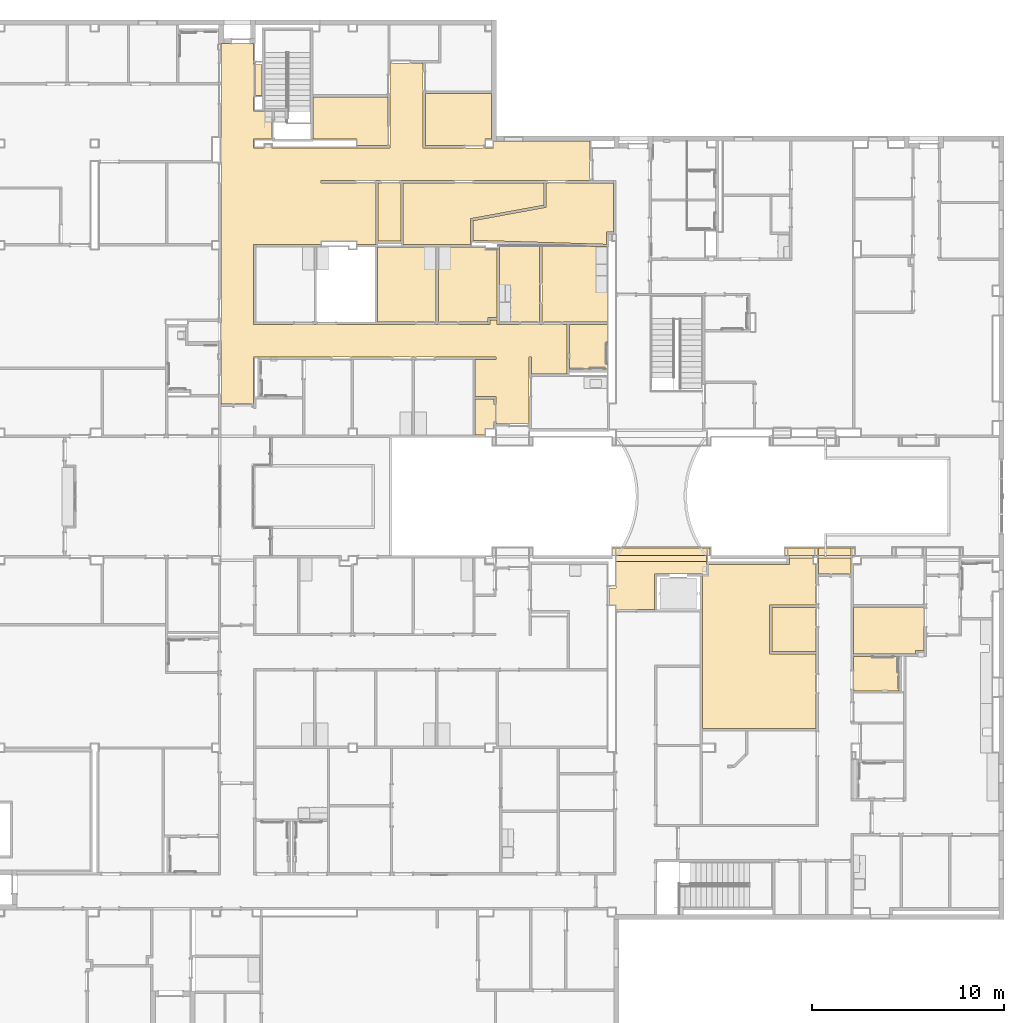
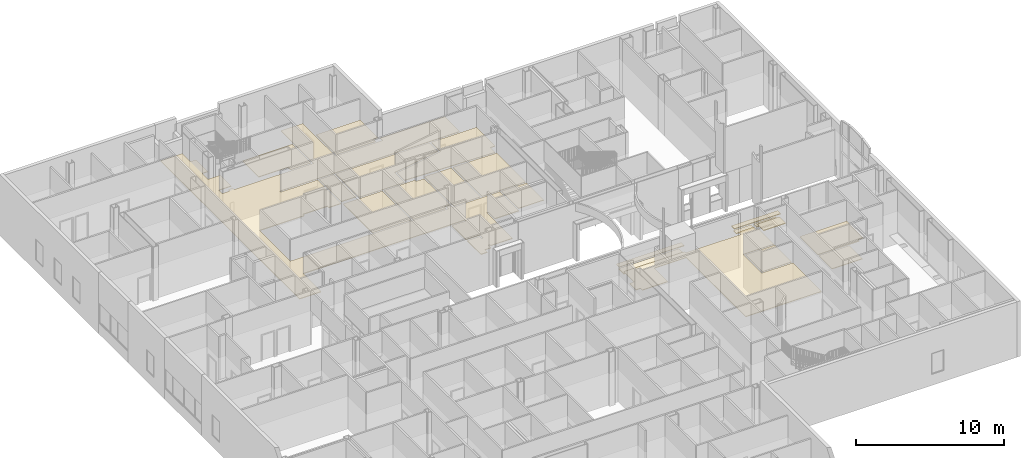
# One storey, part 53 of 87: 21 coverings.
"""IFC2X3 building model written with IfcOpenShell, lengths in metres."""

from ifc_helpers import new_model, entity, si_unit, converted_unit, origin, place, context, project, spatial, face_set, surface_model, material, layer, layer_set, layer_usage, element, save


model = new_model("IFC2X3")

# Units and contexts
model_context = context("Model", 3, precision=1e-09, world=origin())
plan_context = context("Plan", 3, precision=1e-09, world=origin())
ifc_project = project(units=[si_unit("LENGTHUNIT", "METRE"), si_unit("AREAUNIT", "SQUARE_METRE"), si_unit("VOLUMEUNIT", "CUBIC_METRE"), converted_unit("PLANEANGLEUNIT", "DEGREE", entity("IfcRatioMeasure", 0.01745329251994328), si_unit("PLANEANGLEUNIT", "RADIAN"), dimensions=[0, 0, 0, 0, 0, 0, 0]), si_unit("TIMEUNIT", "SECOND")], contexts=[model_context, plan_context])

# Site, building, storey
site_placement = place(None, origin())
site = spatial("IfcSite", under=ifc_project, at=site_placement, Name="Default", CompositionType="ELEMENT")
building_placement = place(site_placement, origin())
building = spatial("IfcBuilding", under=site, at=building_placement, CompositionType="ELEMENT")
storey_placement = place(building_placement, origin())
storey = spatial("IfcBuildingStorey", under=building, at=storey_placement, Name="First Floor", CompositionType="ELEMENT", Elevation=-3.531500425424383e-13)

# Coverings
ifc_material_1 = material(Name="Default")
ifc_layer_1 = layer(ifc_material_1, 0.03599999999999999)
ifc_material_2 = material(Name="Ceiling Tile 600 x 600")
ifc_layer_2 = layer(ifc_material_2, 0.016)
ifc_layer_set_1 = layer_set([ifc_layer_1, ifc_layer_2], Name="Compound Ceiling:ACT 600 x 600mm Grid")
ifc_layer_usage_1 = layer_usage(ifc_layer_set_1, "AXIS3", "NEGATIVE", 0.0)
covering_1_placement = place(storey_placement, origin())
element("IfcCovering", 1, at=covering_1_placement, inside=storey, material=ifc_layer_usage_1, Name="Compound Ceiling:ACT 600 x 600mm Grid", ObjectType="Compound Ceiling:ACT 600 x 600mm Grid", PredefinedType="CEILING", context=model_context, shape_type="SurfaceModel", body=[
    surface_model("IfcFaceBasedSurfaceModel", [(-19.9540000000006, 48.02599999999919, 2.732), (-19.95400000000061, 45.48399999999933, 2.732), (-20.32900000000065, 45.48399999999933, 2.732), (-20.32900000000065, 44.83118581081, 2.732), (-27.28500000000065, 45.04268581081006, 2.732), (-27.28500000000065, 46.06502903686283, 2.732), (-23.47500000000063, 46.76502903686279, 2.732), (-23.47500000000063, 48.02599999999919, 2.732), (-19.9540000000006, 48.02599999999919, 2.68), (-19.95400000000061, 45.48399999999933, 2.68), (-20.32900000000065, 45.48399999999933, 2.68), (-20.32900000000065, 44.83118581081, 2.68), (-27.28500000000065, 45.04268581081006, 2.68), (-27.28500000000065, 46.06502903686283, 2.68), (-23.47500000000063, 46.76502903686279, 2.68), (-23.47500000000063, 48.02599999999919, 2.68)], [face_set([[[0, 1, 2, 3, 4, 5, 6, 7]], [[8, 9, 10, 11, 12, 13, 14, 15]], [[7, 15, 8, 0]], [[6, 14, 15, 7]], [[5, 13, 14, 6]], [[4, 12, 13, 5]], [[3, 4, 12, 11]], [[2, 3, 11, 10]], [[1, 2, 10, 9]], [[0, 1, 9, 8]]])]),
])
ifc_layer_usage_2 = layer_usage(ifc_layer_set_1, "AXIS3", "NEGATIVE", 0.0)
covering_2_placement = place(storey_placement, origin())
element("IfcCovering", 2, at=covering_2_placement, inside=storey, material=ifc_layer_usage_2, Name="Compound Ceiling:ACT 600 x 600mm Grid", ObjectType="Compound Ceiling:ACT 600 x 600mm Grid", PredefinedType="CEILING", context=model_context, shape_type="SurfaceModel", body=[
    surface_model("IfcFaceBasedSurfaceModel", [(-26.21000000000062, 50.20299999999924, 2.732), (-26.21000000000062, 49.85999999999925, 2.732), (-29.89000000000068, 49.85999999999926, 2.732), (-29.89000000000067, 54.28659999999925, 2.732), (-31.60000000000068, 54.28659999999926, 2.732), (-31.60000000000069, 49.85999999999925, 2.732), (-37.7925737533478, 49.85999999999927, 2.732), (-37.7925737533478, 50.05500062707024, 2.732), (-38.14400000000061, 50.05500062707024, 2.732), (-38.14400000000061, 49.85999999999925, 2.732), (-38.72000000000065, 49.85999999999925, 2.732), (-38.72000000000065, 50.31999999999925, 2.732), (-37.75500000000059, 50.31999999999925, 2.732), (-37.75500000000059, 51.78999999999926, 2.732), (-38.72000000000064, 51.78999999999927, 2.732), (-38.72000000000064, 52.5834256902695, 2.732), (-38.28400014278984, 52.5834256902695, 2.732), (-38.28400014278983, 54.19653515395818, 2.732), (-38.72000000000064, 54.19653515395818, 2.732), (-38.72000000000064, 55.28799999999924, 2.732), (-40.41300000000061, 55.28799999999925, 2.732), (-40.41300000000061, 53.20199999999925, 2.732), (-40.41300000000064, 36.50149999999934, 2.732), (-38.72000000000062, 36.50149999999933, 2.732), (-38.72000000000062, 38.94999999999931, 2.732), (-26.08000000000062, 38.94999999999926, 2.732), (-26.08000000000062, 38.82599999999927, 2.732), (-27.17000000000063, 38.82599999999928, 2.732), (-27.17000000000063, 36.90999999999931, 2.732), (-26.08000000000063, 36.9099999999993, 2.732), (-26.08000000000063, 36.49499999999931, 2.732), (-26.20400000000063, 36.49499999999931, 2.732), (-26.20400000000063, 36.78599999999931, 2.732), (-27.17000000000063, 36.78599999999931, 2.732), (-27.17000000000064, 34.9035481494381, 2.732), (-26.67000000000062, 34.9035481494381, 2.732), (-26.67000000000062, 35.23999999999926, 2.732), (-26.20400000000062, 35.23999999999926, 2.732), (-26.20400000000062, 35.57999999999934, 2.732), (-26.08000000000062, 35.57999999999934, 2.732), (-26.08000000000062, 35.47999999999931, 2.732), (-24.37000000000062, 35.4799999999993, 2.732), (-24.37000000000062, 38.94999999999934, 2.732), (-24.24600000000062, 38.94999999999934, 2.732), (-24.24600000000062, 38.07399999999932, 2.732), (-22.38000000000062, 38.07399999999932, 2.732), (-22.38000000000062, 40.65999999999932, 2.732), (-26.04000000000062, 40.65999999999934, 2.732), (-26.04000000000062, 40.88499955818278, 2.732), (-26.39000084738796, 40.88499955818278, 2.732), (-26.39000084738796, 40.65999999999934, 2.732), (-38.72000000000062, 40.65999999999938, 2.732), (-38.72000000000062, 44.82999999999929, 2.732), (-35.21500000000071, 44.82999999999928, 2.732), (-35.21500000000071, 45.00999999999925, 2.732), (-33.32000000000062, 45.00999999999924, 2.732), (-33.32000000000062, 44.82999999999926, 2.732), (-32.3490000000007, 44.82999999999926, 2.732), (-32.3490000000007, 48.02599999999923, 2.732), (-35.21500000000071, 48.02599999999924, 2.732), (-35.21500000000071, 48.14999999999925, 2.732), (-21.18000000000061, 48.1499999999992, 2.732), (-21.1800000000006, 50.20299999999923, 2.732), (-26.21000000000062, 50.20299999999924, 2.68), (-21.1800000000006, 50.20299999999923, 2.68), (-21.18000000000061, 48.1499999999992, 2.68), (-35.21500000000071, 48.14999999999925, 2.68), (-35.21500000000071, 48.02599999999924, 2.68), (-32.3490000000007, 48.02599999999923, 2.68), (-32.3490000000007, 44.82999999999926, 2.68), (-33.32000000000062, 44.82999999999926, 2.68), (-33.32000000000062, 45.00999999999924, 2.68), (-35.21500000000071, 45.00999999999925, 2.68), (-35.21500000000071, 44.82999999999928, 2.68), (-38.72000000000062, 44.82999999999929, 2.68), (-38.72000000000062, 40.65999999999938, 2.68), (-26.39000084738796, 40.65999999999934, 2.68), (-26.39000084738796, 40.88499955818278, 2.68), (-26.04000000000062, 40.88499955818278, 2.68), (-26.04000000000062, 40.65999999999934, 2.68), (-22.38000000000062, 40.65999999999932, 2.68), (-22.38000000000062, 38.07399999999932, 2.68), (-24.24600000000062, 38.07399999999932, 2.68), (-24.24600000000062, 38.94999999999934, 2.68), (-24.37000000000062, 38.94999999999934, 2.68), (-24.37000000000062, 35.4799999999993, 2.68), (-26.08000000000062, 35.47999999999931, 2.68), (-26.08000000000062, 35.57999999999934, 2.68), (-26.20400000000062, 35.57999999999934, 2.68), (-26.20400000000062, 35.23999999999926, 2.68), (-26.67000000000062, 35.23999999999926, 2.68), (-26.67000000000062, 34.9035481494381, 2.68), (-27.17000000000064, 34.9035481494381, 2.68), (-27.17000000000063, 36.78599999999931, 2.68), (-26.20400000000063, 36.78599999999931, 2.68), (-26.20400000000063, 36.49499999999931, 2.68), (-26.08000000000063, 36.49499999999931, 2.68), (-26.08000000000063, 36.9099999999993, 2.68), (-27.17000000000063, 36.90999999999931, 2.68), (-27.17000000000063, 38.82599999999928, 2.68), (-26.08000000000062, 38.82599999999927, 2.68), (-26.08000000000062, 38.94999999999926, 2.68), (-38.72000000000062, 38.94999999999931, 2.68), (-38.72000000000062, 36.50149999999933, 2.68), (-40.41300000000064, 36.50149999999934, 2.68), (-40.41300000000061, 53.20199999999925, 2.68), (-40.41300000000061, 55.28799999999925, 2.68), (-38.72000000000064, 55.28799999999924, 2.68), (-38.72000000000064, 54.19653515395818, 2.68), (-38.28400014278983, 54.19653515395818, 2.68), (-38.28400014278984, 52.5834256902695, 2.68), (-38.72000000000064, 52.5834256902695, 2.68), (-38.72000000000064, 51.78999999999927, 2.68), (-37.75500000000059, 51.78999999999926, 2.68), (-37.75500000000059, 50.31999999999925, 2.68), (-38.72000000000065, 50.31999999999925, 2.68), (-38.72000000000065, 49.85999999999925, 2.68), (-38.14400000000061, 49.85999999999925, 2.68), (-38.14400000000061, 50.05500062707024, 2.68), (-37.7925737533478, 50.05500062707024, 2.68), (-37.7925737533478, 49.85999999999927, 2.68), (-31.60000000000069, 49.85999999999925, 2.68), (-31.60000000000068, 54.28659999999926, 2.68), (-29.89000000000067, 54.28659999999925, 2.68), (-29.89000000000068, 49.85999999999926, 2.68), (-26.21000000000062, 49.85999999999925, 2.68)], [face_set([[[0, 1, 2, 3, 4, 5, 6, 7, 8, 9, 10, 11, 12, 13, 14, 15, 16, 17, 18, 19, 20, 21, 22, 23, 24, 25, 26, 27, 28, 29, 30, 31, 32, 33, 34, 35, 36, 37, 38, 39, 40, 41, 42, 43, 44, 45, 46, 47, 48, 49, 50, 51, 52, 53, 54, 55, 56, 57, 58, 59, 60, 61, 62]], [[63, 64, 65, 66, 67, 68, 69, 70, 71, 72, 73, 74, 75, 76, 77, 78, 79, 80, 81, 82, 83, 84, 85, 86, 87, 88, 89, 90, 91, 92, 93, 94, 95, 96, 97, 98, 99, 100, 101, 102, 103, 104, 105, 106, 107, 108, 109, 110, 111, 112, 113, 114, 115, 116, 117, 118, 119, 120, 121, 122, 123, 124, 125]], [[2, 124, 125, 1]], [[3, 2, 124, 123]], [[4, 122, 123, 3]], [[5, 121, 122, 4]], [[6, 120, 121, 5]], [[7, 6, 120, 119]], [[8, 118, 119, 7]], [[9, 117, 118, 8]], [[10, 116, 117, 9]], [[11, 10, 116, 115]], [[12, 11, 115, 114]], [[13, 12, 114, 113]], [[14, 112, 113, 13]], [[15, 14, 112, 111]], [[16, 15, 111, 110]], [[17, 16, 110, 109]], [[18, 108, 109, 17]], [[19, 18, 108, 107]], [[20, 106, 107, 19]], [[21, 105, 106, 20]], [[22, 104, 105, 21]], [[23, 22, 104, 103]], [[24, 23, 103, 102]], [[25, 24, 102, 101]], [[26, 100, 101, 25]], [[27, 99, 100, 26]], [[28, 98, 99, 27]], [[29, 28, 98, 97]], [[30, 96, 97, 29]], [[31, 95, 96, 30]], [[32, 31, 95, 94]], [[33, 93, 94, 32]], [[34, 92, 93, 33]], [[35, 34, 92, 91]], [[36, 35, 91, 90]], [[37, 36, 90, 89]], [[38, 37, 89, 88]], [[39, 38, 88, 87]], [[40, 86, 87, 39]], [[41, 40, 86, 85]], [[42, 41, 85, 84]], [[43, 42, 84, 83]], [[44, 82, 83, 43]], [[45, 44, 82, 81]], [[46, 45, 81, 80]], [[47, 79, 80, 46]], [[48, 47, 79, 78]], [[49, 77, 78, 48]], [[50, 76, 77, 49]], [[51, 75, 76, 50]], [[52, 51, 75, 74]], [[53, 52, 74, 73]], [[54, 53, 73, 72]], [[55, 54, 72, 71]], [[56, 70, 71, 55]], [[57, 56, 70, 69]], [[58, 57, 69, 68]], [[59, 67, 68, 58]], [[60, 59, 67, 66]], [[61, 60, 66, 65]], [[62, 61, 65, 64]], [[0, 63, 64, 62]], [[1, 125, 63, 0]]])]),
])
ifc_layer_usage_3 = layer_usage(ifc_layer_set_1, "AXIS3", "NEGATIVE", 0.0)
covering_3_placement = place(storey_placement, origin())
element("IfcCovering", 3, at=covering_3_placement, inside=storey, material=ifc_layer_usage_3, Name="Compound Ceiling:ACT 600 x 600mm Grid", ObjectType="Compound Ceiling:ACT 600 x 600mm Grid", PredefinedType="CEILING", context=model_context, shape_type="SurfaceModel", body=[
    surface_model("IfcFaceBasedSurfaceModel", [(-32.22500000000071, 45.00999999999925, 2.732), (-32.2250000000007, 48.02599999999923, 2.732), (-31.04900000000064, 48.02599999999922, 2.732), (-31.04900000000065, 45.00999999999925, 2.732), (-32.22500000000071, 45.00999999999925, 2.68), (-32.2250000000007, 48.02599999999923, 2.68), (-31.04900000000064, 48.02599999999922, 2.68), (-31.04900000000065, 45.00999999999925, 2.68)], [face_set([[[0, 1, 2, 3]], [[4, 5, 6, 7]], [[3, 0, 4, 7]], [[2, 3, 7, 6]], [[1, 5, 6, 2]], [[0, 4, 5, 1]]])]),
])
ifc_layer_usage_4 = layer_usage(ifc_layer_set_1, "AXIS3", "NEGATIVE", 0.0)
covering_4_placement = place(storey_placement, origin())
element("IfcCovering", 4, at=covering_4_placement, inside=storey, material=ifc_layer_usage_4, Name="Compound Ceiling:ACT 600 x 600mm Grid", ObjectType="Compound Ceiling:ACT 600 x 600mm Grid", PredefinedType="CEILING", context=model_context, shape_type="SurfaceModel", body=[
    surface_model("IfcFaceBasedSurfaceModel", [(-27.40900000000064, 44.82999999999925, 2.732), (-27.40900000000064, 46.16832236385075, 2.732), (-23.59900000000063, 46.86832236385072, 2.732), (-23.59900000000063, 48.02599999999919, 2.732), (-30.92500000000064, 48.02599999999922, 2.732), (-30.92500000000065, 44.82999999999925, 2.732), (-27.40900000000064, 44.82999999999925, 2.68), (-30.92500000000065, 44.82999999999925, 2.68), (-30.92500000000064, 48.02599999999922, 2.68), (-23.59900000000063, 48.02599999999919, 2.68), (-23.59900000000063, 46.86832236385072, 2.68), (-27.40900000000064, 46.16832236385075, 2.68)], [face_set([[[0, 1, 2, 3, 4, 5]], [[6, 7, 8, 9, 10, 11]], [[1, 0, 6, 11]], [[2, 1, 11, 10]], [[3, 2, 10, 9]], [[4, 8, 9, 3]], [[5, 7, 8, 4]], [[0, 5, 7, 6]]])]),
])
ifc_layer_usage_5 = layer_usage(ifc_layer_set_1, "AXIS3", "NEGATIVE", 0.0)
covering_5_placement = place(storey_placement, origin())
element("IfcCovering", 5, at=covering_5_placement, inside=storey, material=ifc_layer_usage_5, Name="Compound Ceiling:ACT 600 x 600mm Grid", ObjectType="Compound Ceiling:ACT 600 x 600mm Grid", PredefinedType="CEILING", context=model_context, shape_type="SurfaceModel", body=[
    surface_model("IfcFaceBasedSurfaceModel", [(-29.08600000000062, 44.70599999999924, 2.732), (-26.67000000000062, 44.70599999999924, 2.732), (-26.67000000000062, 44.54999999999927, 2.732), (-26.04000000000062, 44.54999999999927, 2.732), (-26.04000000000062, 41.00899955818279, 2.732), (-26.51400084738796, 41.00899955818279, 2.732), (-26.51400084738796, 40.78399999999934, 2.732), (-29.08600000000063, 40.78399999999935, 2.732), (-29.08600000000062, 44.70599999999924, 2.68), (-26.67000000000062, 44.70599999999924, 2.68), (-26.67000000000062, 44.54999999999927, 2.68), (-26.04000000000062, 44.54999999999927, 2.68), (-26.04000000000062, 41.00899955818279, 2.68), (-26.51400084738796, 41.00899955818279, 2.68), (-26.51400084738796, 40.78399999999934, 2.68), (-29.08600000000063, 40.78399999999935, 2.68)], [face_set([[[0, 1, 2, 3, 4, 5, 6, 7]], [[8, 9, 10, 11, 12, 13, 14, 15]], [[7, 15, 8, 0]], [[6, 7, 15, 14]], [[5, 6, 14, 13]], [[4, 5, 13, 12]], [[3, 4, 12, 11]], [[2, 10, 11, 3]], [[1, 2, 10, 9]], [[0, 8, 9, 1]]])]),
])
ifc_layer_usage_6 = layer_usage(ifc_layer_set_1, "AXIS3", "NEGATIVE", 0.0)
covering_6_placement = place(storey_placement, origin())
element("IfcCovering", 6, at=covering_6_placement, inside=storey, material=ifc_layer_usage_6, Name="Compound Ceiling:ACT 600 x 600mm Grid", ObjectType="Compound Ceiling:ACT 600 x 600mm Grid", PredefinedType="CEILING", context=model_context, shape_type="SurfaceModel", body=[
    surface_model("IfcFaceBasedSurfaceModel", [(-32.25600000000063, 40.78399999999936, 2.732), (-32.25600000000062, 44.70599999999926, 2.732), (-29.21000000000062, 44.70599999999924, 2.732), (-29.21000000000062, 40.78399999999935, 2.732), (-32.25600000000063, 40.78399999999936, 2.68), (-32.25600000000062, 44.70599999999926, 2.68), (-29.21000000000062, 44.70599999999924, 2.68), (-29.21000000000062, 40.78399999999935, 2.68)], [face_set([[[0, 1, 2, 3]], [[4, 5, 6, 7]], [[3, 0, 4, 7]], [[2, 3, 7, 6]], [[1, 5, 6, 2]], [[0, 4, 5, 1]]])]),
])
ifc_layer_usage_7 = layer_usage(ifc_layer_set_1, "AXIS3", "NEGATIVE", 0.0)
covering_7_placement = place(storey_placement, origin())
element("IfcCovering", 7, at=covering_7_placement, inside=storey, material=ifc_layer_usage_7, Name="Compound Ceiling:ACT 600 x 600mm Grid", ObjectType="Compound Ceiling:ACT 600 x 600mm Grid", PredefinedType="CEILING", context=model_context, shape_type="SurfaceModel", body=[
    surface_model("IfcFaceBasedSurfaceModel", [(-23.81400000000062, 40.78399999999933, 2.732), (-25.91600000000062, 40.78399999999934, 2.732), (-25.91600000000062, 44.73999999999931, 2.732), (-23.81400000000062, 44.73999999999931, 2.732), (-23.81400000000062, 40.78399999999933, 2.68), (-25.91600000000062, 40.78399999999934, 2.68), (-25.91600000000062, 44.73999999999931, 2.68), (-23.81400000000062, 44.73999999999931, 2.68)], [face_set([[[0, 1, 2, 3]], [[4, 5, 6, 7]], [[3, 0, 4, 7]], [[2, 6, 7, 3]], [[1, 5, 6, 2]], [[0, 1, 5, 4]]])]),
])
ifc_layer_usage_8 = layer_usage(ifc_layer_set_1, "AXIS3", "NEGATIVE", 0.0)
covering_8_placement = place(storey_placement, origin())
element("IfcCovering", 8, at=covering_8_placement, inside=storey, material=ifc_layer_usage_8, Name="Compound Ceiling:ACT 600 x 600mm Grid", ObjectType="Compound Ceiling:ACT 600 x 600mm Grid", PredefinedType="CEILING", context=model_context, shape_type="SurfaceModel", body=[
    surface_model("IfcFaceBasedSurfaceModel", [(-20.2900000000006, 44.70594269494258, 2.732), (-20.29000000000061, 40.78399999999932, 2.732), (-23.69000000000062, 40.78399999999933, 2.732), (-23.69000000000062, 44.73999999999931, 2.732), (-21.41010692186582, 44.7399999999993, 2.732), (-20.2900000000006, 44.70594269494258, 2.68), (-20.29000000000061, 40.78399999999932, 2.68), (-23.69000000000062, 40.78399999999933, 2.68), (-23.69000000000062, 44.73999999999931, 2.68), (-21.41010692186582, 44.7399999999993, 2.68)], [face_set([[[0, 1, 2, 3, 4]], [[5, 6, 7, 8, 9]], [[4, 9, 5, 0]], [[3, 8, 9, 4]], [[2, 7, 8, 3]], [[1, 2, 7, 6]], [[0, 1, 6, 5]]])]),
])
ifc_layer_usage_9 = layer_usage(ifc_layer_set_1, "AXIS3", "NEGATIVE", 0.0)
covering_9_placement = place(storey_placement, origin())
element("IfcCovering", 9, at=covering_9_placement, inside=storey, material=ifc_layer_usage_9, Name="Compound Ceiling:ACT 600 x 600mm Grid", ObjectType="Compound Ceiling:ACT 600 x 600mm Grid", PredefinedType="CEILING", context=model_context, shape_type="SurfaceModel", body=[
    surface_model("IfcFaceBasedSurfaceModel", [(-9.413975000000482, 25.91599999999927, 2.732), (-9.413975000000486, 23.62400042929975, 2.732), (-11.70597500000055, 23.62400042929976, 2.732), (-11.70597500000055, 25.91599999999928, 2.732), (-9.413975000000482, 25.91599999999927, 2.68), (-9.413975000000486, 23.62400042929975, 2.68), (-11.70597500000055, 23.62400042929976, 2.68), (-11.70597500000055, 25.91599999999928, 2.68)], [face_set([[[0, 1, 2, 3]], [[4, 5, 6, 7]], [[3, 7, 4, 0]], [[2, 6, 7, 3]], [[1, 2, 6, 5]], [[0, 1, 5, 4]]])]),
])
ifc_layer_usage_10 = layer_usage(ifc_layer_set_1, "AXIS3", "NEGATIVE", 0.0)
covering_10_placement = place(storey_placement, origin())
element("IfcCovering", 10, at=covering_10_placement, inside=storey, material=ifc_layer_usage_10, Name="Compound Ceiling:ACT 600 x 600mm Grid", ObjectType="Compound Ceiling:ACT 600 x 600mm Grid", PredefinedType="CEILING", context=model_context, shape_type="SurfaceModel", body=[
    surface_model("IfcFaceBasedSurfaceModel", [(-7.455975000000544, 23.35999999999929, 2.732), (-5.099975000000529, 23.35999999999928, 2.732), (-5.099975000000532, 21.56999999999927, 2.732), (-7.455975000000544, 21.56999999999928, 2.732), (-7.455975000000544, 23.35999999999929, 2.68), (-5.099975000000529, 23.35999999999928, 2.68), (-5.099975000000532, 21.56999999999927, 2.68), (-7.455975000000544, 21.56999999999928, 2.68)], [face_set([[[0, 1, 2, 3]], [[4, 5, 6, 7]], [[3, 7, 4, 0]], [[2, 3, 7, 6]], [[1, 2, 6, 5]], [[0, 4, 5, 1]]])]),
])
ifc_layer_usage_11 = layer_usage(ifc_layer_set_1, "AXIS3", "NEGATIVE", 0.0)
covering_11_placement = place(storey_placement, origin())
element("IfcCovering", 11, at=covering_11_placement, inside=storey, material=ifc_layer_usage_11, Name="Compound Ceiling:ACT 600 x 600mm Grid", ObjectType="Compound Ceiling:ACT 600 x 600mm Grid", PredefinedType="CEILING", context=model_context, shape_type="SurfaceModel", body=[
    surface_model("IfcFaceBasedSurfaceModel", [(-7.455975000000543, 25.93999999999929, 2.732), (-3.793975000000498, 25.93999999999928, 2.732), (-3.793975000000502, 23.68149999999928, 2.732), (-4.233975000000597, 23.68149999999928, 2.732), (-4.233975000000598, 23.48399999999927, 2.732), (-7.455975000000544, 23.48399999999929, 2.732), (-7.455975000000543, 25.93999999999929, 2.68), (-3.793975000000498, 25.93999999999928, 2.68), (-3.793975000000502, 23.68149999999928, 2.68), (-4.233975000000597, 23.68149999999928, 2.68), (-4.233975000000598, 23.48399999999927, 2.68), (-7.455975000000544, 23.48399999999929, 2.68)], [face_set([[[0, 1, 2, 3, 4, 5]], [[6, 7, 8, 9, 10, 11]], [[5, 11, 6, 0]], [[4, 5, 11, 10]], [[3, 4, 10, 9]], [[2, 3, 9, 8]], [[1, 2, 8, 7]], [[0, 6, 7, 1]]])]),
])
ifc_layer_usage_12 = layer_usage(ifc_layer_set_1, "AXIS3", "NEGATIVE", 0.0)
covering_12_placement = place(storey_placement, origin())
element("IfcCovering", 12, at=covering_12_placement, inside=storey, material=ifc_layer_usage_12, Name="Compound Ceiling:ACT 600 x 600mm Grid", ObjectType="Compound Ceiling:ACT 600 x 600mm Grid", PredefinedType="CEILING", context=model_context, shape_type="SurfaceModel", body=[
    surface_model("IfcFaceBasedSurfaceModel", [(-33.32000000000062, 50.31999999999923, 2.732), (-35.61600000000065, 50.31999999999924, 2.732), (-35.61600000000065, 52.51999999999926, 2.732), (-31.72400000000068, 52.51999999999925, 2.732), (-31.72400000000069, 49.98399999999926, 2.732), (-33.32000000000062, 49.98399999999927, 2.732), (-33.32000000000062, 50.31999999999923, 2.68), (-35.61600000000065, 50.31999999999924, 2.68), (-35.61600000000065, 52.51999999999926, 2.68), (-31.72400000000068, 52.51999999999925, 2.68), (-31.72400000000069, 49.98399999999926, 2.68), (-33.32000000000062, 49.98399999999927, 2.68)], [face_set([[[0, 1, 2, 3, 4, 5]], [[6, 7, 8, 9, 10, 11]], [[4, 5, 11, 10]], [[3, 4, 10, 9]], [[2, 8, 9, 3]], [[1, 7, 8, 2]], [[0, 1, 7, 6]], [[5, 11, 6, 0]]])]),
])
ifc_layer_usage_13 = layer_usage(ifc_layer_set_1, "AXIS3", "NEGATIVE", 0.0)
covering_13_placement = place(storey_placement, origin())
element("IfcCovering", 13, at=covering_13_placement, inside=storey, material=ifc_layer_usage_13, Name="Compound Ceiling:ACT 600 x 600mm Grid", ObjectType="Compound Ceiling:ACT 600 x 600mm Grid", PredefinedType="CEILING", context=model_context, shape_type="SurfaceModel", body=[
    surface_model("IfcFaceBasedSurfaceModel", [(-29.76600000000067, 52.68999999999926, 2.732), (-26.32700000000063, 52.68999999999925, 2.732), (-26.32700000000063, 50.31999999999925, 2.732), (-26.67000000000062, 50.31999999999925, 2.732), (-26.67000000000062, 49.98399999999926, 2.732), (-29.76600000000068, 49.98399999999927, 2.732), (-29.76600000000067, 52.68999999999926, 2.68), (-26.32700000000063, 52.68999999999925, 2.68), (-26.32700000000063, 50.31999999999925, 2.68), (-26.67000000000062, 50.31999999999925, 2.68), (-26.67000000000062, 49.98399999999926, 2.68), (-29.76600000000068, 49.98399999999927, 2.68)], [face_set([[[0, 1, 2, 3, 4, 5]], [[6, 7, 8, 9, 10, 11]], [[5, 11, 6, 0]], [[4, 5, 11, 10]], [[3, 4, 10, 9]], [[2, 3, 9, 8]], [[1, 2, 8, 7]], [[0, 6, 7, 1]]])]),
])
ifc_layer_usage_14 = layer_usage(ifc_layer_set_1, "AXIS3", "NEGATIVE", 0.0)
covering_14_placement = place(storey_placement, origin())
element("IfcCovering", 14, at=covering_14_placement, inside=storey, material=ifc_layer_usage_14, Name="Compound Ceiling:ACT 600 x 600mm Grid", ObjectType="Compound Ceiling:ACT 600 x 600mm Grid", PredefinedType="CEILING", context=model_context, shape_type="SurfaceModel", body=[
    surface_model("IfcFaceBasedSurfaceModel", [(-20.29000000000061, 38.3299999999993, 2.732), (-22.25600000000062, 38.32999999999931, 2.732), (-22.25600000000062, 40.65999999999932, 2.732), (-20.29000000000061, 40.65999999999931, 2.732), (-20.29000000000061, 38.3299999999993, 2.68), (-22.25600000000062, 38.32999999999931, 2.68), (-22.25600000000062, 40.65999999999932, 2.68), (-20.29000000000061, 40.65999999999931, 2.68)], [face_set([[[0, 1, 2, 3]], [[4, 5, 6, 7]], [[3, 0, 4, 7]], [[2, 6, 7, 3]], [[1, 5, 6, 2]], [[0, 1, 5, 4]]])]),
])
ifc_layer_usage_15 = layer_usage(ifc_layer_set_1, "AXIS3", "NEGATIVE", 0.0)
covering_15_placement = place(storey_placement, origin())
element("IfcCovering", 15, at=covering_15_placement, inside=storey, material=ifc_layer_usage_15, Name="Compound Ceiling:ACT 600 x 600mm Grid", ObjectType="Compound Ceiling:ACT 600 x 600mm Grid", PredefinedType="CEILING", context=model_context, shape_type="SurfaceModel", body=[
    surface_model("IfcFaceBasedSurfaceModel", [(-20.17467857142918, 26.92079999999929, 2.732), (-19.8300000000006, 26.92079999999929, 2.732), (-19.8300000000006, 28.30350000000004, 2.732), (-15.10997500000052, 28.30350000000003, 2.732), (-15.10997500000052, 28.14999999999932, 2.732), (-10.79184886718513, 28.14999999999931, 2.732), (-10.79184886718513, 28.48599999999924, 2.732), (-9.576848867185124, 28.48599999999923, 2.732), (-9.576848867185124, 28.14999999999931, 2.732), (-9.413975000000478, 28.14999999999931, 2.732), (-9.413975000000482, 26.03999999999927, 2.732), (-11.82997500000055, 26.03999999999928, 2.732), (-11.82997500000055, 23.50000042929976, 2.732), (-9.413975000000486, 23.50000042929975, 2.732), (-9.413975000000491, 19.60999999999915, 2.732), (-15.3360000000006, 19.60999999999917, 2.732), (-15.33600000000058, 27.64589999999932, 2.732), (-17.82920000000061, 27.64589999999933, 2.732), (-17.82920000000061, 25.80739999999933, 2.732), (-19.83000000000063, 25.80739999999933, 2.732), (-19.83000000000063, 26.04599999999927, 2.732), (-20.17467857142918, 26.04599999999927, 2.732), (-20.17467857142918, 26.92079999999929, 2.68), (-20.17467857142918, 26.04599999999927, 2.68), (-19.83000000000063, 26.04599999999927, 2.68), (-19.83000000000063, 25.80739999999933, 2.68), (-17.82920000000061, 25.80739999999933, 2.68), (-17.82920000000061, 27.64589999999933, 2.68), (-15.33600000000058, 27.64589999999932, 2.68), (-15.3360000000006, 19.60999999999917, 2.68), (-9.413975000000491, 19.60999999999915, 2.68), (-9.413975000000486, 23.50000042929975, 2.68), (-11.82997500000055, 23.50000042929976, 2.68), (-11.82997500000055, 26.03999999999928, 2.68), (-9.413975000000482, 26.03999999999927, 2.68), (-9.413975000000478, 28.14999999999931, 2.68), (-9.576848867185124, 28.14999999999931, 2.68), (-9.576848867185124, 28.48599999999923, 2.68), (-10.79184886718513, 28.48599999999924, 2.68), (-10.79184886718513, 28.14999999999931, 2.68), (-15.10997500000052, 28.14999999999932, 2.68), (-15.10997500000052, 28.30350000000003, 2.68), (-19.8300000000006, 28.30350000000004, 2.68), (-19.8300000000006, 26.92079999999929, 2.68)], [face_set([[[0, 1, 2, 3, 4, 5, 6, 7, 8, 9, 10, 11, 12, 13, 14, 15, 16, 17, 18, 19, 20, 21]], [[22, 23, 24, 25, 26, 27, 28, 29, 30, 31, 32, 33, 34, 35, 36, 37, 38, 39, 40, 41, 42, 43]], [[21, 23, 22, 0]], [[20, 21, 23, 24]], [[19, 25, 24, 20]], [[18, 19, 25, 26]], [[17, 18, 26, 27]], [[16, 17, 27, 28]], [[15, 29, 28, 16]], [[14, 15, 29, 30]], [[13, 14, 30, 31]], [[12, 32, 31, 13]], [[11, 12, 32, 33]], [[10, 11, 33, 34]], [[9, 10, 34, 35]], [[8, 36, 35, 9]], [[7, 8, 36, 37]], [[6, 38, 37, 7]], [[5, 39, 38, 6]], [[4, 40, 39, 5]], [[3, 4, 40, 41]], [[2, 42, 41, 3]], [[1, 43, 42, 2]], [[0, 22, 43, 1]]])]),
])
ifc_material_3 = material(Name="Metal - Stud Layer")
ifc_layer_3 = layer(ifc_material_3, 0.045)
ifc_material_4 = material(Name="Plasterboard")
ifc_layer_4 = layer(ifc_material_4, 0.012)
ifc_layer_set_2 = layer_set([ifc_layer_3, ifc_layer_4], Name="Compound Ceiling:Gypsum Board")
ifc_layer_usage_16 = layer_usage(ifc_layer_set_2, "AXIS3", "NEGATIVE", 0.0)
covering_16_placement = place(storey_placement, origin())
element("IfcCovering", 16, at=covering_16_placement, inside=storey, material=ifc_layer_usage_16, Name="Compound Ceiling:Gypsum Board", ObjectType="Compound Ceiling:Gypsum Board", PredefinedType="CEILING", context=model_context, shape_type="SurfaceModel", body=[
    surface_model("IfcFaceBasedSurfaceModel", [(-9.289975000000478, 28.48599999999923, 2.857), (-7.579975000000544, 28.48599999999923, 2.857), (-7.579975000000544, 27.64399999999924, 2.857), (-9.289975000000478, 27.64399999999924, 2.857), (-9.289975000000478, 28.48599999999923, 2.8), (-7.579975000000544, 28.48599999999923, 2.8), (-7.579975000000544, 27.64399999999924, 2.8), (-9.289975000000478, 27.64399999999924, 2.8)], [face_set([[[0, 1, 2, 3]], [[4, 5, 6, 7]], [[3, 7, 4, 0]], [[2, 3, 7, 6]], [[1, 2, 6, 5]], [[0, 4, 5, 1]]])]),
])
ifc_layer_usage_17 = layer_usage(ifc_layer_set_2, "AXIS3", "NEGATIVE", 0.0)
covering_17_placement = place(storey_placement, origin())
element("IfcCovering", 17, at=covering_17_placement, inside=storey, material=ifc_layer_usage_17, Name="Compound Ceiling:Gypsum Board", ObjectType="Compound Ceiling:Gypsum Board", PredefinedType="CEILING", context=model_context, shape_type="SurfaceModel", body=[
    surface_model("IfcFaceBasedSurfaceModel", [(-15.1099750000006, 29.01599999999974, 2.557), (-15.10997500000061, 28.30799999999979, 2.557), (-19.83000000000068, 28.30799999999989, 2.557), (-19.83000000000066, 29.01599999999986, 2.557), (-15.1099750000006, 29.01599999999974, 2.5), (-15.10997500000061, 28.30799999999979, 2.5), (-19.83000000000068, 28.30799999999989, 2.5), (-19.83000000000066, 29.01599999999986, 2.5)], [face_set([[[0, 1, 2, 3]], [[4, 5, 6, 7]], [[0, 1, 5, 4]], [[1, 2, 6, 5]], [[2, 6, 7, 3]], [[3, 7, 4, 0]]])]),
])
ifc_layer_usage_18 = layer_usage(ifc_layer_set_2, "AXIS3", "NEGATIVE", 0.0)
covering_18_placement = place(storey_placement, origin())
element("IfcCovering", 18, at=covering_18_placement, inside=storey, material=ifc_layer_usage_18, Name="Compound Ceiling:Gypsum Board", ObjectType="Compound Ceiling:Gypsum Board", PredefinedType="CEILING", context=model_context, shape_type="SurfaceModel", body=[
    surface_model("IfcFaceBasedSurfaceModel", [(-9.289975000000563, 28.60999999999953, 2.557), (-9.289975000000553, 29.01599999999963, 2.557), (-7.579975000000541, 29.01599999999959, 2.557), (-7.579975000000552, 28.6099999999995, 2.557), (-9.289975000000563, 28.60999999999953, 2.5), (-9.289975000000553, 29.01599999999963, 2.5), (-7.579975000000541, 29.01599999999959, 2.5), (-7.579975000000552, 28.6099999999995, 2.5)], [face_set([[[0, 1, 2, 3]], [[4, 5, 6, 7]], [[0, 4, 5, 1]], [[1, 5, 6, 2]], [[2, 3, 7, 6]], [[3, 0, 4, 7]]])]),
])
ifc_layer_usage_19 = layer_usage(ifc_layer_set_2, "AXIS3", "NEGATIVE", 0.0)
covering_19_placement = place(storey_placement, origin())
element("IfcCovering", 19, at=covering_19_placement, inside=storey, material=ifc_layer_usage_19, Name="Compound Ceiling:Gypsum Board", ObjectType="Compound Ceiling:Gypsum Board", PredefinedType="CEILING", context=model_context, shape_type="SurfaceModel", body=[
    surface_model("IfcFaceBasedSurfaceModel", [(-10.8637227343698, 28.60999999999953, 2.557), (-10.86372273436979, 29.01599999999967, 2.557), (-9.504975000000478, 29.01599999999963, 2.557), (-9.504975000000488, 28.6099999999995, 2.557), (-10.8637227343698, 28.60999999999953, 2.5), (-10.86372273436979, 29.01599999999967, 2.5), (-9.504975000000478, 29.01599999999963, 2.5), (-9.504975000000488, 28.6099999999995, 2.5)], [face_set([[[0, 1, 2, 3]], [[4, 5, 6, 7]], [[0, 4, 5, 1]], [[1, 5, 6, 2]], [[2, 3, 7, 6]], [[3, 0, 4, 7]]])]),
])
ifc_layer_usage_20 = layer_usage(ifc_layer_set_2, "AXIS3", "NEGATIVE", 0.0)
covering_20_placement = place(storey_placement, origin())
element("IfcCovering", 20, at=covering_20_placement, inside=storey, material=ifc_layer_usage_20, Name="Compound Ceiling:Gypsum Board", ObjectType="Compound Ceiling:Gypsum Board", PredefinedType="CEILING", context=model_context, shape_type="SurfaceModel", body=[
    surface_model("IfcFaceBasedSurfaceModel", [(-11.0247227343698, 28.60999999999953, 3.0), (-11.02472273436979, 29.01599999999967, 3.0), (-7.418975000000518, 29.01599999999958, 3.0), (-7.418975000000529, 28.60999999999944, 3.0), (-11.0247227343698, 28.60999999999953, 2.943), (-11.02472273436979, 29.01599999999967, 2.943), (-7.418975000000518, 29.01599999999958, 2.943), (-7.418975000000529, 28.60999999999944, 2.943)], [face_set([[[0, 1, 2, 3]], [[4, 5, 6, 7]], [[0, 4, 5, 1]], [[1, 5, 6, 2]], [[2, 3, 7, 6]], [[3, 0, 4, 7]]])]),
])
ifc_layer_usage_21 = layer_usage(ifc_layer_set_2, "AXIS3", "NEGATIVE", 0.0)
covering_21_placement = place(storey_placement, origin())
element("IfcCovering", 21, at=covering_21_placement, inside=storey, material=ifc_layer_usage_21, Name="Compound Ceiling:Gypsum Board", ObjectType="Compound Ceiling:Gypsum Board", PredefinedType="CEILING", context=model_context, shape_type="SurfaceModel", body=[
    surface_model("IfcFaceBasedSurfaceModel", [(-14.92900000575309, 29.01599999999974, 3.0), (-14.9290000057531, 28.60999999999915, 3.0), (-20.00600000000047, 28.60999999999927, 3.0), (-20.00600000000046, 29.01599999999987, 3.0), (-14.92900000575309, 29.01599999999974, 2.943), (-14.9290000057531, 28.60999999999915, 2.943), (-20.00600000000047, 28.60999999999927, 2.943), (-20.00600000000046, 29.01599999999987, 2.943)], [face_set([[[0, 1, 2, 3]], [[4, 5, 6, 7]], [[0, 1, 5, 4]], [[1, 2, 6, 5]], [[2, 6, 7, 3]], [[3, 7, 4, 0]]])]),
])

save(model, "model.ifc")
